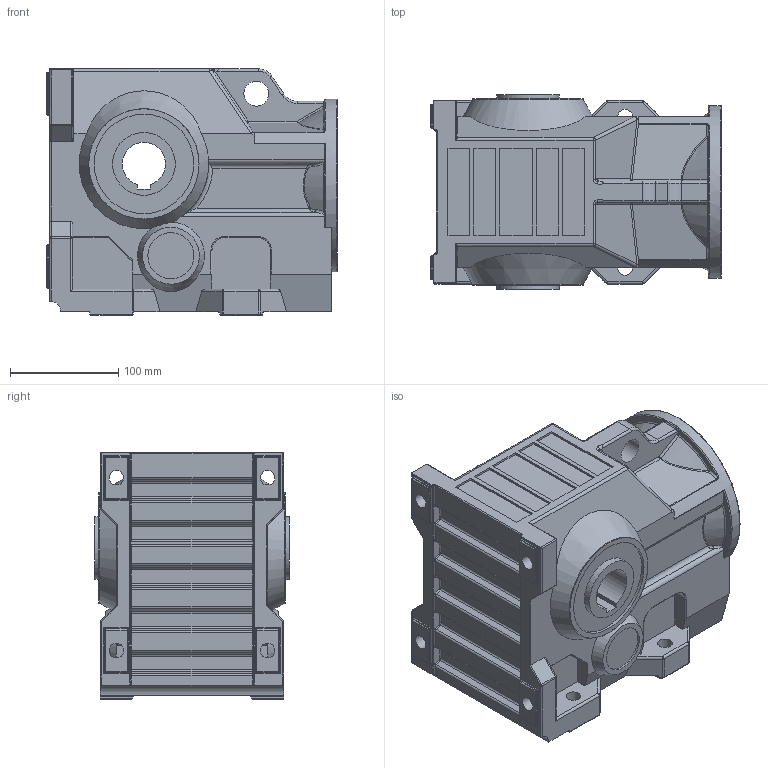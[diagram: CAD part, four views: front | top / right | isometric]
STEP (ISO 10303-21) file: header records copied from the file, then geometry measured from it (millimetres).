
FILE_DESCRIPTION((''),'2;1');
FILE_NAME('F:\PAWEŁ\ZLECENIA\2011 DualSystem\Przekładnie DK\001 Modele\DKAB60_\DK_60_STEP\DK_B_60.stp','2012-06-26T18:47:10',('admin'),(''),'Autodesk Inventor 2009','Autodesk Inventor 2009','');
FILE_SCHEMA(('AUTOMOTIVE_DESIGN { 1 0 10303 214 1 1 1 1 }'));
Length unit declared in the file: millimetre
Products named in the file (1): DK_B_60
Bounding box: 269 x 180 x 228 mm (x, y, z)
Volume: 7371169.3 mm3; surface area: 329744.6 mm2
Topology: 1 solids, 1 shells, 568 faces, 1363 edges, 804 vertices
Faces by surface type: cylinder 239, plane 167, bspline 124, torus 17, sphere 13, cone 8
Full cylindrical faces by diameter (mm): 13.5 x4, 23 x1, 42.674 x2, 58.102 x1, 92.102 x1, 102.102 x2, 108 x1, 160 x1
Entity records: 20671 total; most frequent: CARTESIAN_POINT 7883, DIRECTION 2626, ORIENTED_EDGE 2616, EDGE_CURVE 1308, AXIS2_PLACEMENT_3D 980, VERTEX_POINT 780, VECTOR 666, LINE 666
